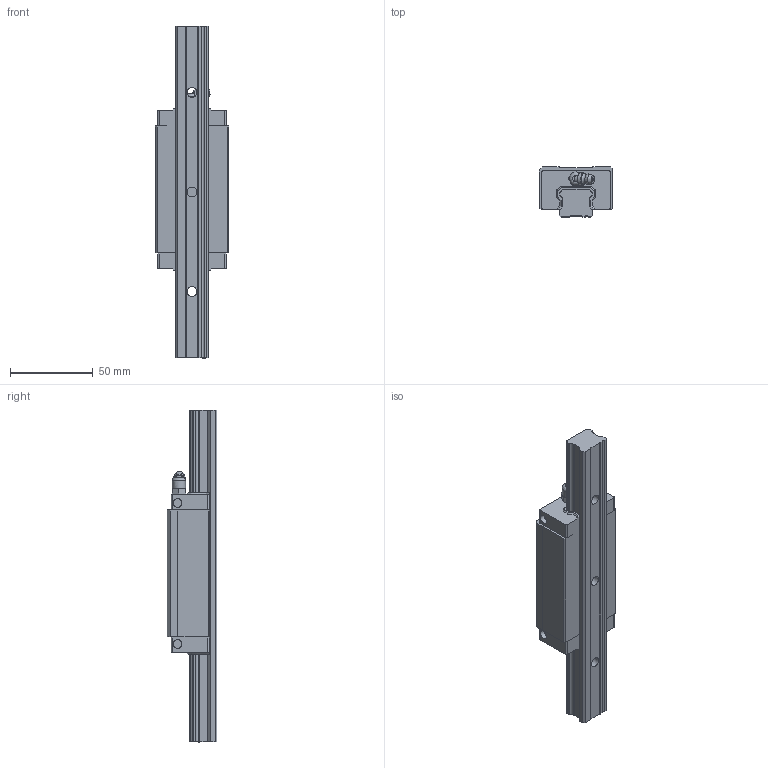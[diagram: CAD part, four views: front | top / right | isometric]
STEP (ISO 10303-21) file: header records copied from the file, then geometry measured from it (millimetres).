
FILE_DESCRIPTION((''),'2;1');
FILE_NAME('C:\Documents and Settings\土屋\My Documents\土屋移動用フォルダ\製品 (図面)\カタログ用3D\リニアガイド\EGH-L\EGH20L.stp','2015-12-15T17:44:56',('y'),(''),'Autodesk Inventor 11','Autodesk Inventor 11','');
FILE_SCHEMA(('AUTOMOTIVE_DESIGN { 1 0 10303 214 1 1 1 1 }'));
Length unit declared in the file: millimetre
Products named in the file (3): EGH20L; EGH20Lレール; EGH20Lキャリッジ
Assembly tree (2 placements, depth 2):
  EGH20L
    EGH20Lレール
    EGH20Lキャリッジ
Bounding box: 44 x 30 x 200 mm (x, y, z)
Volume: 138229.7 mm3; surface area: 35114.9 mm2
Topology: 2 solids, 3 shells, 270 faces, 712 edges, 463 vertices
Faces by surface type: plane 159, cylinder 79, cone 20, bspline 10, torus 1, sphere 1
Full cylindrical faces by diameter (mm): 4.4 x4, 5 x4, 5.3 x4, 6 x6, 7.75 x1, 8 x1, 9.5 x3
Entity records: 8372 total; most frequent: CARTESIAN_POINT 1710, DIRECTION 1380, ORIENTED_EDGE 1330, EDGE_CURVE 665, AXIS2_PLACEMENT_3D 479, VERTEX_POINT 452, VECTOR 422, LINE 422
